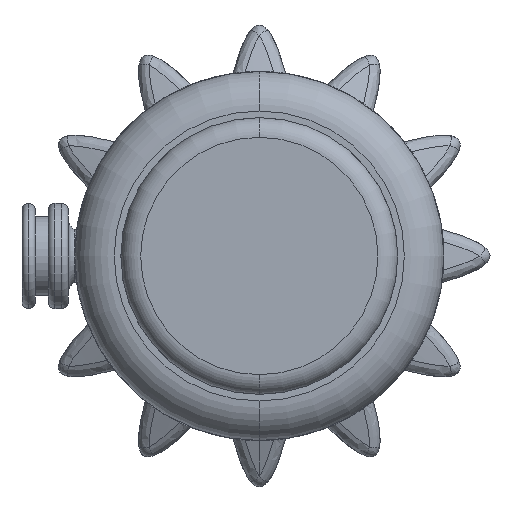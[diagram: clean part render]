
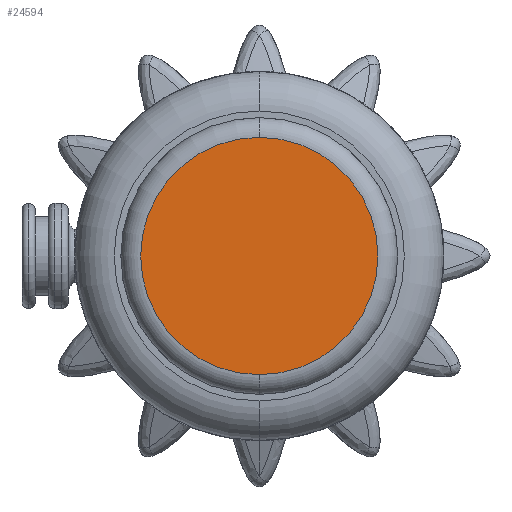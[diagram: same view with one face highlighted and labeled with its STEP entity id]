
A CAD part, front view. The second image highlights one B-rep face of the part: STEP entity #24594.
In plain terms, the highlighted planar face has unit normal (0, -1, 0).
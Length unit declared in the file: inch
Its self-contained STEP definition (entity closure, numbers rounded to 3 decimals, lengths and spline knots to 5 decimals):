
#68 = DIRECTION ( 'NONE',  ( 0., 1., 0. ) ) ;
#1074 = VERTEX_POINT ( 'NONE', #9586 ) ;
#3827 = DIRECTION ( 'NONE',  ( 0., 1., 0. ) ) ;
#9442 = AXIS2_PLACEMENT_3D ( 'NONE', #33894, #68, #24641 ) ;
#9586 = CARTESIAN_POINT ( 'NONE',  ( 0., 10.59375, 0.5625 ) ) ;
#13196 = DIRECTION ( 'NONE',  ( 0., 0., 1. ) ) ;
#13230 = DIRECTION ( 'NONE',  ( 0., -1., 0. ) ) ;
#16297 = EDGE_CURVE ( 'NONE', #1074, #23987, #31161, .T. ) ;
#22425 = CARTESIAN_POINT ( 'NONE',  ( 0., 10.59375, 0. ) ) ;
#22457 = AXIS2_PLACEMENT_3D ( 'NONE', #29005, #13230, #31840 ) ;
#22716 = PLANE ( 'NONE',  #22457 ) ;
#23987 = VERTEX_POINT ( 'NONE', #36346 ) ;
#24219 = EDGE_CURVE ( 'NONE', #23987, #1074, #24428, .T. ) ;
#24428 = CIRCLE ( 'NONE', #9442, 0.5625 ) ;
#24594 = ADVANCED_FACE ( 'NONE', ( #25395 ), #22716, .T. ) ;
#24641 = DIRECTION ( 'NONE',  ( 0., 0., 1. ) ) ;
#24867 = AXIS2_PLACEMENT_3D ( 'NONE', #22425, #3827, #13196 ) ;
#25395 = FACE_OUTER_BOUND ( 'NONE', #31690, .T. ) ;
#29005 = CARTESIAN_POINT ( 'NONE',  ( 0., 10.59375, 0.5625 ) ) ;
#30226 = ORIENTED_EDGE ( 'NONE', *, *, #16297, .F. ) ;
#31161 = CIRCLE ( 'NONE', #24867, 0.5625 ) ;
#31690 = EDGE_LOOP ( 'NONE', ( #30226, #36160 ) ) ;
#31840 = DIRECTION ( 'NONE',  ( 0., 0., 1. ) ) ;
#33894 = CARTESIAN_POINT ( 'NONE',  ( 0., 10.59375, 0. ) ) ;
#36160 = ORIENTED_EDGE ( 'NONE', *, *, #24219, .F. ) ;
#36346 = CARTESIAN_POINT ( 'NONE',  ( 0., 10.59375, -0.5625 ) ) ;
